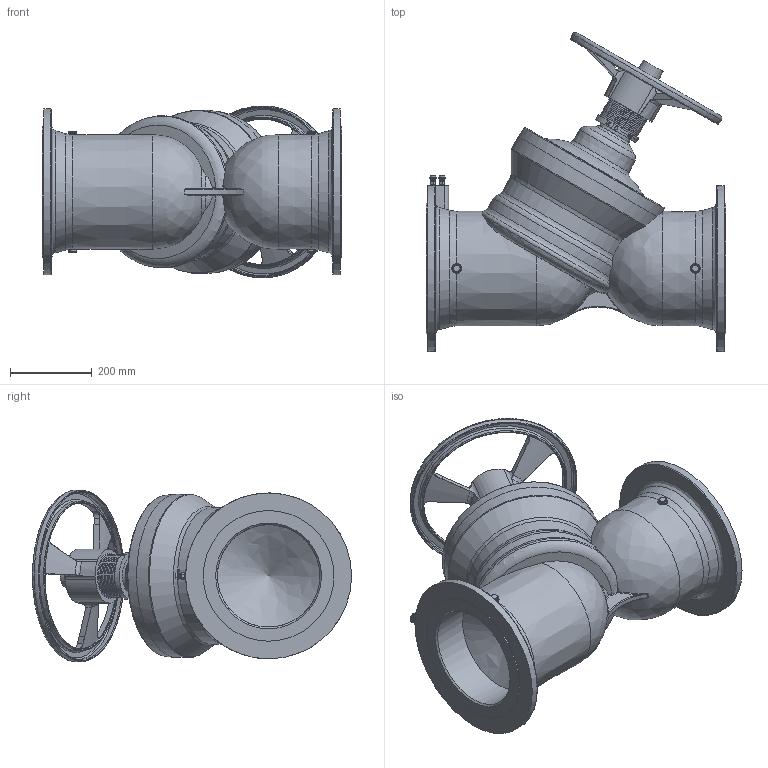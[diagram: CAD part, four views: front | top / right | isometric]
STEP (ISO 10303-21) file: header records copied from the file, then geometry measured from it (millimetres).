
FILE_DESCRIPTION((''),'2;1');
FILE_NAME('P:\Fastrack\53972_CRANE 3D\DM921-941\WORKSPACE\DM921-941\DM941_DN250\DM941_DN250.stp','2011-03-01T14:09:14',('btaylor'),(''),'Autodesk Inventor 2008','Autodesk Inventor 2008','');
FILE_SCHEMA(('AUTOMOTIVE_DESIGN { 1 0 10303 214 1 1 1 1 }'));
Length unit declared in the file: millimetre
Products named in the file (1): DM941_DN250
Bounding box: 730 x 778.95 x 419.26 mm (x, y, z)
Volume: 54544800.1 mm3; surface area: 2015289.2 mm2
Topology: 2 solids, 3 shells, 867 faces, 2223 edges, 1450 vertices
Faces by surface type: plane 343, bspline 298, cylinder 150, cone 49, torus 27
Full cylindrical faces by diameter (mm): 7.4 x2, 8 x2, 11 x2, 12 x12, 12.7 x2, 13.7 x2, 20 x4, 32 x1, 32.7 x1, 45.8 x1, 46.2 x1, 46.8 x1, 50 x1, 63 x1, 84 x1, 98 x1, 114 x1, 122 x1, 319 x1, 319.004 x1, 366.489 x1
Entity records: 89052 total; most frequent: CARTESIAN_POINT 69819, ORIENTED_EDGE 4140, DIRECTION 2842, EDGE_CURVE 2070, VERTEX_POINT 1414, EDGE_LOOP 1084, AXIS2_PLACEMENT_3D 994, STYLED_ITEM 868
